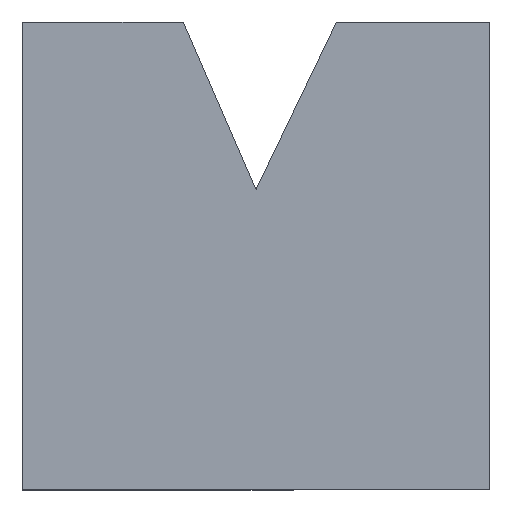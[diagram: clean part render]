
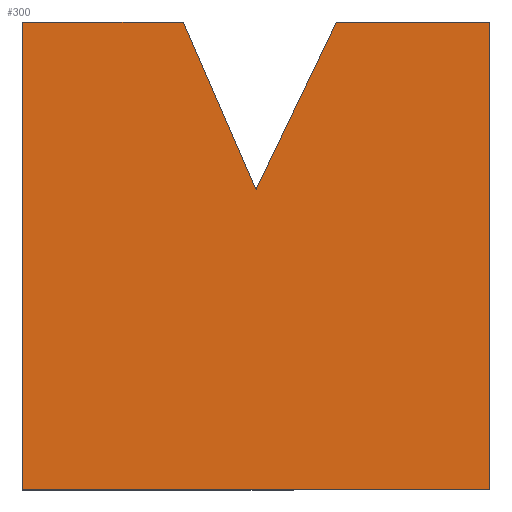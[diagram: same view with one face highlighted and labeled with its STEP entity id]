
A CAD part, top view. The second image highlights one B-rep face of the part: STEP entity #300.
In plain terms, the highlighted planar face has unit normal (0, 0, 1).
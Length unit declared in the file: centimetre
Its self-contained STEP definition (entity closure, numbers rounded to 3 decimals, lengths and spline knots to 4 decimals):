
#2 = LINE ( 'NONE', #350, #455 ) ;
#16 = VECTOR ( 'NONE', #401, 100. ) ;
#25 = ORIENTED_EDGE ( 'NONE', *, *, #612, .T. ) ;
#27 = CARTESIAN_POINT ( 'NONE',  ( 500., 640.7775, 1000. ) ) ;
#57 = DIRECTION ( 'NONE',  ( -0.432, -0.902, 0. ) ) ;
#79 = CARTESIAN_POINT ( 'NONE',  ( 344.5206, 1000., 1000. ) ) ;
#103 = CARTESIAN_POINT ( 'NONE',  ( 1000., 1000., 1000. ) ) ;
#137 = PLANE ( 'NONE',  #588 ) ;
#138 = ORIENTED_EDGE ( 'NONE', *, *, #688, .T. ) ;
#150 = ORIENTED_EDGE ( 'NONE', *, *, #233, .T. ) ;
#170 = VERTEX_POINT ( 'NONE', #359 ) ;
#187 = LINE ( 'NONE', #620, #332 ) ;
#195 = CARTESIAN_POINT ( 'NONE',  ( 0., 0., 1000. ) ) ;
#196 = DIRECTION ( 'NONE',  ( 0., 1., 0. ) ) ;
#206 = DIRECTION ( 'NONE',  ( 0., 0., 1. ) ) ;
#221 = VERTEX_POINT ( 'NONE', #27 ) ;
#233 = EDGE_CURVE ( 'NONE', #442, #320, #264, .T. ) ;
#264 = LINE ( 'NONE', #602, #552 ) ;
#286 = DIRECTION ( 'NONE',  ( -1., 0., 0. ) ) ;
#289 = VERTEX_POINT ( 'NONE', #538 ) ;
#300 = ADVANCED_FACE ( 'NONE', ( #483 ), #137, .T. ) ;
#320 = VERTEX_POINT ( 'NONE', #103 ) ;
#332 = VECTOR ( 'NONE', #286, 100. ) ;
#338 = ORIENTED_EDGE ( 'NONE', *, *, #656, .T. ) ;
#350 = CARTESIAN_POINT ( 'NONE',  ( 500., 640.7775, 1000. ) ) ;
#359 = CARTESIAN_POINT ( 'NONE',  ( 0., 1000., 1000. ) ) ;
#362 = LINE ( 'NONE', #79, #513 ) ;
#365 = DIRECTION ( 'NONE',  ( 1., 0., 0. ) ) ;
#367 = CARTESIAN_POINT ( 'NONE',  ( 0., 0., 1000. ) ) ;
#371 = VECTOR ( 'NONE', #458, 100. ) ;
#401 = DIRECTION ( 'NONE',  ( 0., -1., 0. ) ) ;
#432 = EDGE_CURVE ( 'NONE', #289, #221, #2, .T. ) ;
#442 = VERTEX_POINT ( 'NONE', #578 ) ;
#450 = EDGE_LOOP ( 'NONE', ( #338, #492, #138, #25, #150, #726, #566 ) ) ;
#455 = VECTOR ( 'NONE', #57, 100. ) ;
#458 = DIRECTION ( 'NONE',  ( -1., 0., 0. ) ) ;
#461 = LINE ( 'NONE', #635, #371 ) ;
#483 = FACE_OUTER_BOUND ( 'NONE', #450, .T. ) ;
#492 = ORIENTED_EDGE ( 'NONE', *, *, #495, .T. ) ;
#495 = EDGE_CURVE ( 'NONE', #511, #170, #461, .T. ) ;
#511 = VERTEX_POINT ( 'NONE', #528 ) ;
#513 = VECTOR ( 'NONE', #534, 100. ) ;
#528 = CARTESIAN_POINT ( 'NONE',  ( 344.5206, 1000., 1000. ) ) ;
#534 = DIRECTION ( 'NONE',  ( -0.397, 0.918, 0. ) ) ;
#538 = CARTESIAN_POINT ( 'NONE',  ( 671.9293, 1000., 1000. ) ) ;
#544 = VERTEX_POINT ( 'NONE', #195 ) ;
#552 = VECTOR ( 'NONE', #196, 100. ) ;
#563 = LINE ( 'NONE', #679, #16 ) ;
#566 = ORIENTED_EDGE ( 'NONE', *, *, #432, .T. ) ;
#578 = CARTESIAN_POINT ( 'NONE',  ( 1000., 0., 1000. ) ) ;
#588 = AXIS2_PLACEMENT_3D ( 'NONE', #704, #206, #365 ) ;
#592 = LINE ( 'NONE', #367, #717 ) ;
#602 = CARTESIAN_POINT ( 'NONE',  ( 1000., 1000., 1000. ) ) ;
#612 = EDGE_CURVE ( 'NONE', #544, #442, #592, .T. ) ;
#620 = CARTESIAN_POINT ( 'NONE',  ( 0., 1000., 1000. ) ) ;
#635 = CARTESIAN_POINT ( 'NONE',  ( 0., 1000., 1000. ) ) ;
#648 = DIRECTION ( 'NONE',  ( 1., 0., 0. ) ) ;
#656 = EDGE_CURVE ( 'NONE', #221, #511, #362, .T. ) ;
#679 = CARTESIAN_POINT ( 'NONE',  ( 0., 1000., 1000. ) ) ;
#688 = EDGE_CURVE ( 'NONE', #170, #544, #563, .T. ) ;
#704 = CARTESIAN_POINT ( 'NONE',  ( 0., 0., 1000. ) ) ;
#717 = VECTOR ( 'NONE', #648, 100. ) ;
#723 = EDGE_CURVE ( 'NONE', #320, #289, #187, .T. ) ;
#726 = ORIENTED_EDGE ( 'NONE', *, *, #723, .T. ) ;
